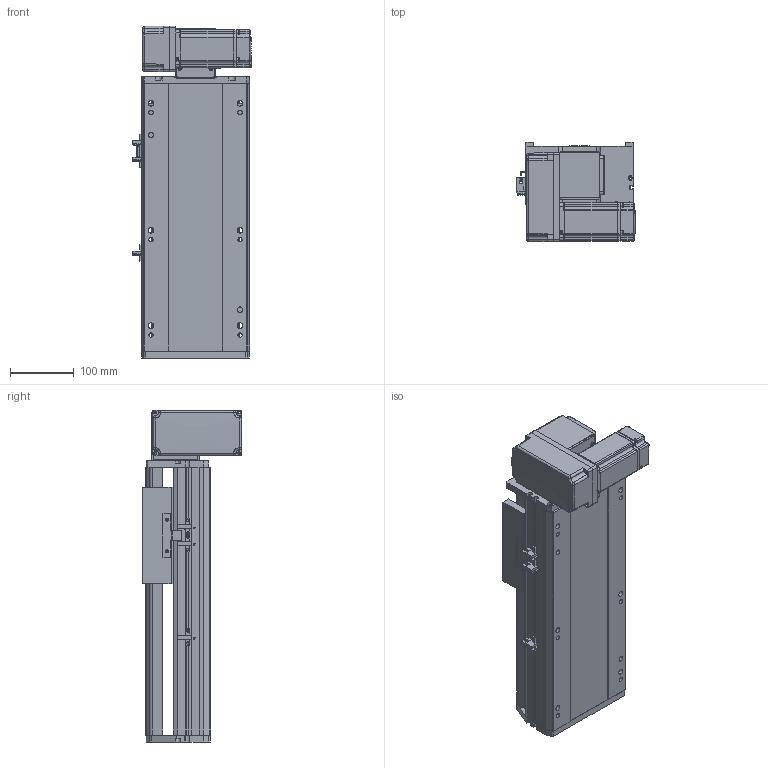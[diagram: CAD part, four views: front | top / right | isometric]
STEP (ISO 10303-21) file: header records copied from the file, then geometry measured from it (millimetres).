
FILE_DESCRIPTION (( 'STEP AP214' ), '1' );
FILE_NAME ('RTB17S-XX-150-LM-M40-C4.STEP', '2025-12-11T06:20:37', ( '' ), ( '' ), 'SwSTEP 2.0', 'SolidWorks 2018', '' );
FILE_SCHEMA (( 'AUTOMOTIVE_DESIGN' ));
Length unit declared in the file: millimetre
Products named in the file (14): RTB17S-L-001耜醱啣^RTB17S-XX-XX-LM-M40-C4; RMP17S-L-014-T20--々湍釱^RTB17S-LM-々湍釱蚾饜-400W_RTB17S-XX-XX-LM-M40-C4; RTB17S-L-004佪裝蹟譫蟀諉釱^RTB17S-XX-XX-LM-M40-C4; RTB17S-LM-々湍釱蚾饜-400W^RTB17S-XX-XX-LM-M40-C4; OMRON EE-SX672 传感器^RTB17S-XX-XX-LM-M40-C4; RTB14-L-005P--轴承塑胶压盖^RTB17S-LM-皮带座装配-400W_RTB17S-XX-XX-LM-M40-C4; 400W侜督萇儂^RTB17S-XX-XX-LM-M40-C4; RTB17-R-011菁釱^RTB17S-XX-XX-LM-M40-C4; RTB17S-XX-150-LM-M40-C4; RTB14-L-017P^RTB17S-LM-々湍釱蚾饜-400W_RTB17S-XX-XX-LM-M40-C4; RTH13-BL-012覜茼え俋离^RTB17S-XX-XX-LM-M40-C4; RTB14-L-008-M20--萇儂啣^RTB17S-LM-々湍釱蚾饜-400W_RTB17S-XX-XX-LM-M40-C4; RTB17S-L-007奻裔^RTB17S-XX-XX-LM-M40-C4; RTB14-L-018P^RTB17S-LM-々湍釱蚾饜-400W_RTB17S-XX-XX-LM-M40-C4
Assembly tree (16 placements, depth 3):
  RTB17S-XX-150-LM-M40-C4
    RTB17-R-011菁釱^RTB17S-XX-XX-LM-M40-C4
    RTB17S-L-007奻裔^RTB17S-XX-XX-LM-M40-C4
    OMRON EE-SX672 传感器^RTB17S-XX-XX-LM-M40-C4  x3
    RTH13-BL-012覜茼え俋离^RTB17S-XX-XX-LM-M40-C4
    RTB17S-L-001耜醱啣^RTB17S-XX-XX-LM-M40-C4
    400W侜督萇儂^RTB17S-XX-XX-LM-M40-C4
    RTB17S-L-004佪裝蹟譫蟀諉釱^RTB17S-XX-XX-LM-M40-C4
    RTB17S-LM-々湍釱蚾饜-400W^RTB17S-XX-XX-LM-M40-C4
      RMP17S-L-014-T20--々湍釱^RTB17S-LM-々湍釱蚾饜-400W_RTB17S-XX-XX-LM-M40-C4
      RTB14-L-005P--轴承塑胶压盖^RTB17S-LM-皮带座装配-400W_RTB17S-XX-XX-LM-M40-C4
      RTB14-L-008-M20--萇儂啣^RTB17S-LM-々湍釱蚾饜-400W_RTB17S-XX-XX-LM-M40-C4
      RTB14-L-017P^RTB17S-LM-々湍釱蚾饜-400W_RTB17S-XX-XX-LM-M40-C4  x2
      RTB14-L-018P^RTB17S-LM-々湍釱蚾饜-400W_RTB17S-XX-XX-LM-M40-C4
Bounding box: 186 x 156.5 x 522.5 mm (x, y, z)
Volume: 5442698 mm3; surface area: 742167.2 mm2
Topology: 15 solids, 15 shells, 2141 faces, 5871 edges, 3825 vertices
Faces by surface type: plane 1060, cylinder 633, bspline 301, cone 139, torus 8
Entity records: 59561 total; most frequent: CARTESIAN_POINT 16476, ORIENTED_EDGE 8586, DIRECTION 8036, EDGE_CURVE 4293, VERTEX_POINT 2813, AXIS2_PLACEMENT_3D 2743, LINE 2550, VECTOR 2550
